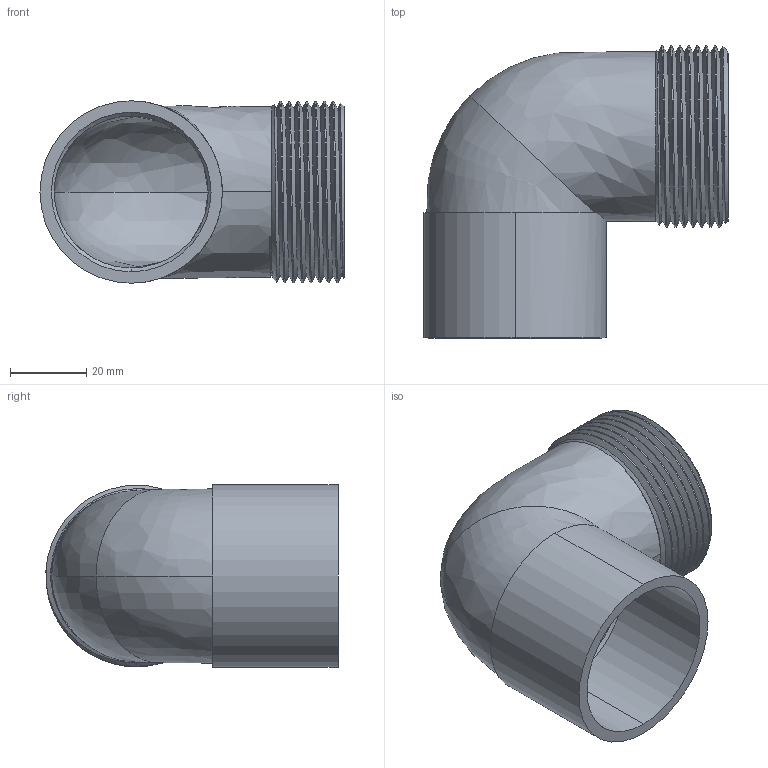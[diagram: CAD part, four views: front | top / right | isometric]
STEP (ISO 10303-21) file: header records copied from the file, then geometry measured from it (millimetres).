
FILE_DESCRIPTION (( 'STEP AP214' ), '1' );
FILE_NAME ('4092 42X112.STEP', '2013-09-13T23:57:29', ( '微软用户' ), ( '微软中国' ), 'SwSTEP 2.0', 'SolidWorks 2008', '' );
FILE_SCHEMA (( 'AUTOMOTIVE_DESIGN' ));
Length unit declared in the file: millimetre
Products named in the file (1): 4092 42X112
Bounding box: 80 x 76.85 x 48 mm (x, y, z)
Volume: 43460.3 mm3; surface area: 31046 mm2
Topology: 1 solids, 1 shells, 41 faces, 114 edges, 75 vertices
Faces by surface type: cylinder 19, cone 8, bspline 8, plane 6
Entity records: 3699 total; most frequent: CARTESIAN_POINT 2798, ORIENTED_EDGE 228, DIRECTION 130, EDGE_CURVE 114, VERTEX_POINT 75, AXIS2_PLACEMENT_3D 52, EDGE_LOOP 43, FACE_OUTER_BOUND 41
